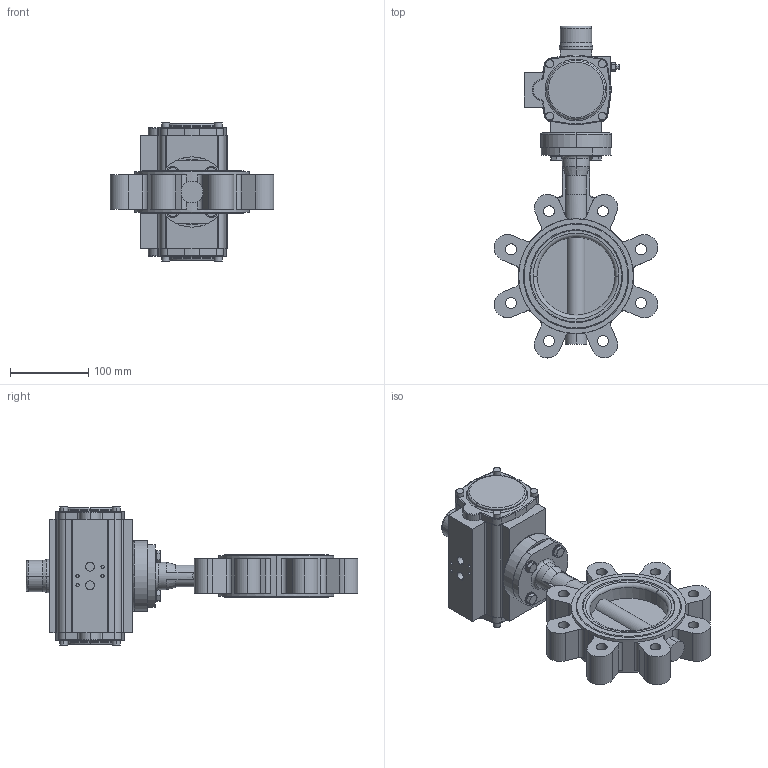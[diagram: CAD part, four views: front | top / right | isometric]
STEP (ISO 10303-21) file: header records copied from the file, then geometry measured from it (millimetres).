
FILE_DESCRIPTION (( 'STEP AP214' ), '1' );
FILE_NAME ('67703.step', '2020-10-26T07:27:19', ( '' ), ( '' ), 'SwSTEP 2.0', 'SolidWorks 2019', '' );
FILE_SCHEMA (( 'AUTOMOTIVE_DESIGN' ));
Length unit declared in the file: millimetre
Products named in the file (8): U-Scheibe DIN 125 A_M8; Flanschadapter F07-F05; Achtkantreduktion 17-11 mm; TL20-0100_M01; 67335_15x15x2 - L=18; DA0080-V17_01; 67703; 6kt-Schr DIN 933_M8x45
Assembly tree (13 placements, depth 2):
  67703
    TL20-0100_M01
    Flanschadapter F07-F05
    Achtkantreduktion 17-11 mm
    DA0080-V17_01
    6kt-Schr DIN 933_M8x45  x4
    U-Scheibe DIN 125 A_M8  x4
    67335_15x15x2 - L=18
Bounding box: 209.52 x 425.26 x 176.9 mm (x, y, z)
Volume: 2720508.3 mm3; surface area: 296279 mm2
Topology: 15 solids, 15 shells, 834 faces, 2100 edges, 1351 vertices
Faces by surface type: plane 374, cylinder 350, cone 52, torus 46, bspline 12
Entity records: 27559 total; most frequent: CARTESIAN_POINT 5016, DIRECTION 4173, ORIENTED_EDGE 3792, EDGE_CURVE 1896, AXIS2_PLACEMENT_3D 1610, VERTEX_POINT 1231, VECTOR 953, LINE 953
